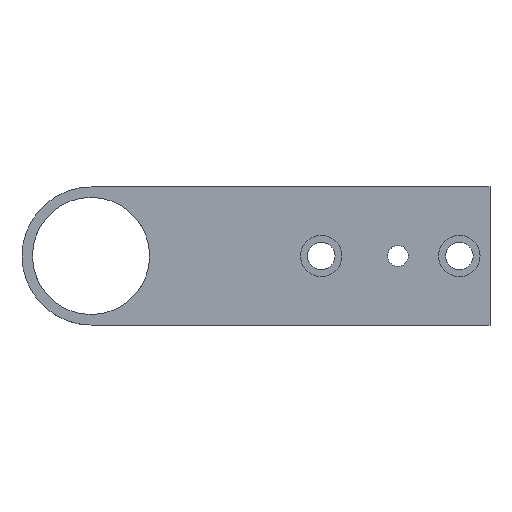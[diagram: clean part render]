
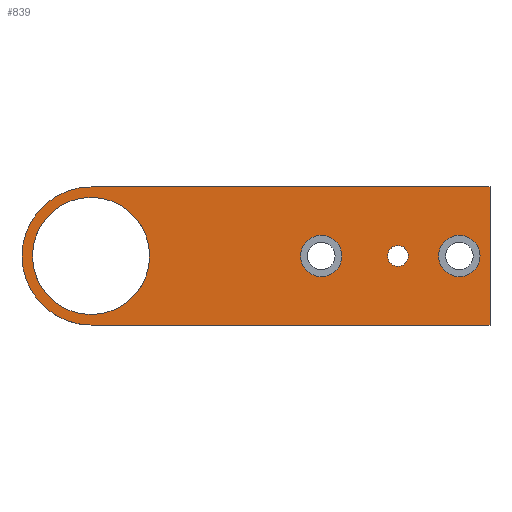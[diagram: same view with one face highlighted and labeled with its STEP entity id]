
A CAD part, top view. The second image highlights one B-rep face of the part: STEP entity #839.
In plain terms, the highlighted planar face has unit normal (0, 0, 1).
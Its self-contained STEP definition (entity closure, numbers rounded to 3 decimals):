
#11 = CARTESIAN_POINT ( 'NONE',  ( 130., -22.5, 6. ) ) ;
#12 = DIRECTION ( 'NONE',  ( 1., 0., 0. ) ) ;
#13 = CARTESIAN_POINT ( 'NONE',  ( 0., 0., 6. ) ) ;
#14 = DIRECTION ( 'NONE',  ( 0., 0., -1. ) ) ;
#15 = DIRECTION ( 'NONE',  ( 1., 0., 0. ) ) ;
#16 = CARTESIAN_POINT ( 'NONE',  ( 0., 0., 6. ) ) ;
#17 = DIRECTION ( 'NONE',  ( 0., 0., 1. ) ) ;
#18 = DIRECTION ( 'NONE',  ( 1., 0., 0. ) ) ;
#19 = CARTESIAN_POINT ( 'NONE',  ( 130., 22.5, 6. ) ) ;
#20 = DIRECTION ( 'NONE',  ( 0., 1., 0. ) ) ;
#21 = CARTESIAN_POINT ( 'NONE',  ( 0., 22.5, 6. ) ) ;
#22 = DIRECTION ( 'NONE',  ( -1., 0., 0. ) ) ;
#23 = CARTESIAN_POINT ( 'NONE',  ( 120., 0., 6. ) ) ;
#24 = DIRECTION ( 'NONE',  ( 0., 0., 1. ) ) ;
#25 = DIRECTION ( 'NONE',  ( 1., 0., 0. ) ) ;
#26 = CARTESIAN_POINT ( 'NONE',  ( 75., 0., 6. ) ) ;
#27 = DIRECTION ( 'NONE',  ( 0., 0., 1. ) ) ;
#28 = DIRECTION ( 'NONE',  ( 1., 0., 0. ) ) ;
#31 = CARTESIAN_POINT ( 'NONE',  ( 100., 0., 6. ) ) ;
#32 = DIRECTION ( 'NONE',  ( 0., 0., -1. ) ) ;
#33 = DIRECTION ( 'NONE',  ( -1., 0., 0. ) ) ;
#154 = AXIS2_PLACEMENT_3D ( 'NONE', #31, #32, #33 ) ;
#155 = AXIS2_PLACEMENT_3D ( 'NONE', #26, #27, #28 ) ;
#156 = AXIS2_PLACEMENT_3D ( 'NONE', #23, #24, #25 ) ;
#157 = AXIS2_PLACEMENT_3D ( 'NONE', #16, #17, #18 ) ;
#158 = AXIS2_PLACEMENT_3D ( 'NONE', #13, #14, #15 ) ;
#163 = AXIS2_PLACEMENT_3D ( 'NONE', #980, #981, #982 ) ;
#171 = AXIS2_PLACEMENT_3D ( 'NONE', #1037, #1038, #1039 ) ;
#178 = AXIS2_PLACEMENT_3D ( 'NONE', #872, #873, #874 ) ;
#185 = AXIS2_PLACEMENT_3D ( 'NONE', #1042, #1043, #1044 ) ;
#191 = AXIS2_PLACEMENT_3D ( 'NONE', #1073, #1074, #1075 ) ;
#208 = CIRCLE ( 'NONE', #191, 6.75 ) ;
#226 = CIRCLE ( 'NONE', #171, 3.4 ) ;
#232 = CIRCLE ( 'NONE', #185, 6.75 ) ;
#261 = FACE_OUTER_BOUND ( 'NONE', #360, .T. ) ;
#263 = FACE_BOUND ( 'NONE', #362, .T. ) ;
#265 = FACE_BOUND ( 'NONE', #358, .T. ) ;
#268 = FACE_BOUND ( 'NONE', #356, .T. ) ;
#275 = CARTESIAN_POINT ( 'NONE',  ( 130., 22.5, 6. ) ) ;
#276 = FACE_BOUND ( 'NONE', #357, .T. ) ;
#288 = CARTESIAN_POINT ( 'NONE',  ( 130., -22.5, 6. ) ) ;
#290 = CARTESIAN_POINT ( 'NONE',  ( 0., -22.5, 6. ) ) ;
#293 = CARTESIAN_POINT ( 'NONE',  ( -22.5, 0., 6. ) ) ;
#305 = CARTESIAN_POINT ( 'NONE',  ( 0., 22.5, 6. ) ) ;
#343 = VERTEX_POINT ( 'NONE', #633 ) ;
#356 = EDGE_LOOP ( 'NONE', ( #588, #587 ) ) ;
#357 = EDGE_LOOP ( 'NONE', ( #577, #576 ) ) ;
#358 = EDGE_LOOP ( 'NONE', ( #581, #580 ) ) ;
#360 = EDGE_LOOP ( 'NONE', ( #586, #585, #584, #583, #582 ) ) ;
#362 = EDGE_LOOP ( 'NONE', ( #579, #578 ) ) ;
#457 = VERTEX_POINT ( 'NONE', #641 ) ;
#459 = VERTEX_POINT ( 'NONE', #639 ) ;
#462 = VERTEX_POINT ( 'NONE', #645 ) ;
#476 = VERTEX_POINT ( 'NONE', #666 ) ;
#478 = VERTEX_POINT ( 'NONE', #669 ) ;
#479 = VERTEX_POINT ( 'NONE', #670 ) ;
#482 = VERTEX_POINT ( 'NONE', #674 ) ;
#576 = ORIENTED_EDGE ( 'NONE', *, *, #1345, .T. ) ;
#577 = ORIENTED_EDGE ( 'NONE', *, *, #1415, .T. ) ;
#578 = ORIENTED_EDGE ( 'NONE', *, *, #1347, .F. ) ;
#579 = ORIENTED_EDGE ( 'NONE', *, *, #1414, .F. ) ;
#580 = ORIENTED_EDGE ( 'NONE', *, *, #1359, .F. ) ;
#581 = ORIENTED_EDGE ( 'NONE', *, *, #1413, .F. ) ;
#582 = ORIENTED_EDGE ( 'NONE', *, *, #1412, .T. ) ;
#583 = ORIENTED_EDGE ( 'NONE', *, *, #1411, .T. ) ;
#584 = ORIENTED_EDGE ( 'NONE', *, *, #1410, .T. ) ;
#585 = ORIENTED_EDGE ( 'NONE', *, *, #1398, .T. ) ;
#586 = ORIENTED_EDGE ( 'NONE', *, *, #1409, .T. ) ;
#587 = ORIENTED_EDGE ( 'NONE', *, *, #1408, .T. ) ;
#588 = ORIENTED_EDGE ( 'NONE', *, *, #1371, .T. ) ;
#633 = CARTESIAN_POINT ( 'NONE',  ( 19.079, 0., 6. ) ) ;
#639 = CARTESIAN_POINT ( 'NONE',  ( 113.25, 0., 6. ) ) ;
#641 = CARTESIAN_POINT ( 'NONE',  ( -19.079, 0., 6. ) ) ;
#645 = CARTESIAN_POINT ( 'NONE',  ( 126.75, 0., 6. ) ) ;
#666 = CARTESIAN_POINT ( 'NONE',  ( 68.25, 0., 6. ) ) ;
#669 = CARTESIAN_POINT ( 'NONE',  ( 103.4, 0., 6. ) ) ;
#670 = CARTESIAN_POINT ( 'NONE',  ( 96.6, 0., 6. ) ) ;
#674 = CARTESIAN_POINT ( 'NONE',  ( 81.75, 0., 6. ) ) ;
#780 = VERTEX_POINT ( 'NONE', #275 ) ;
#787 = VERTEX_POINT ( 'NONE', #288 ) ;
#788 = VERTEX_POINT ( 'NONE', #290 ) ;
#790 = VERTEX_POINT ( 'NONE', #293 ) ;
#796 = VERTEX_POINT ( 'NONE', #305 ) ;
#839 = ADVANCED_FACE ( 'NONE', ( #268, #261, #265, #263, #276 ), #914, .T. ) ;
#872 = CARTESIAN_POINT ( 'NONE',  ( 0., 0., 6. ) ) ;
#873 = DIRECTION ( 'NONE',  ( 0., 0., -1. ) ) ;
#874 = DIRECTION ( 'NONE',  ( 1., 0., 0. ) ) ;
#910 = CARTESIAN_POINT ( 'NONE',  ( 0., 0., 6. ) ) ;
#914 = PLANE ( 'NONE',  #1541 ) ;
#917 = DIRECTION ( 'NONE',  ( 0., 0., 1. ) ) ;
#918 = DIRECTION ( 'NONE',  ( 1., 0., 0. ) ) ;
#980 = CARTESIAN_POINT ( 'NONE',  ( 0., 0., 6. ) ) ;
#981 = DIRECTION ( 'NONE',  ( 0., 0., 1. ) ) ;
#982 = DIRECTION ( 'NONE',  ( 1., 0., 0. ) ) ;
#1037 = CARTESIAN_POINT ( 'NONE',  ( 100., 0., 6. ) ) ;
#1038 = DIRECTION ( 'NONE',  ( 0., 0., -1. ) ) ;
#1039 = DIRECTION ( 'NONE',  ( -1., 0., 0. ) ) ;
#1042 = CARTESIAN_POINT ( 'NONE',  ( 75., 0., 6. ) ) ;
#1043 = DIRECTION ( 'NONE',  ( 0., 0., 1. ) ) ;
#1044 = DIRECTION ( 'NONE',  ( 1., 0., 0. ) ) ;
#1073 = CARTESIAN_POINT ( 'NONE',  ( 120., 0., 6. ) ) ;
#1074 = DIRECTION ( 'NONE',  ( 0., 0., 1. ) ) ;
#1075 = DIRECTION ( 'NONE',  ( 1., 0., 0. ) ) ;
#1217 = CIRCLE ( 'NONE', #154, 3.4 ) ;
#1218 = CIRCLE ( 'NONE', #155, 6.75 ) ;
#1219 = VECTOR ( 'NONE', #22, 1000. ) ;
#1220 = CIRCLE ( 'NONE', #156, 6.75 ) ;
#1221 = VECTOR ( 'NONE', #20, 1000. ) ;
#1222 = LINE ( 'NONE', #21, #1219 ) ;
#1223 = VECTOR ( 'NONE', #12, 1000. ) ;
#1224 = LINE ( 'NONE', #19, #1221 ) ;
#1225 = LINE ( 'NONE', #11, #1223 ) ;
#1226 = CIRCLE ( 'NONE', #157, 22.5 ) ;
#1231 = CIRCLE ( 'NONE', #158, 19.079 ) ;
#1246 = CIRCLE ( 'NONE', #163, 22.5 ) ;
#1278 = CIRCLE ( 'NONE', #178, 19.079 ) ;
#1345 = EDGE_CURVE ( 'NONE', #478, #479, #226, .T. ) ;
#1347 = EDGE_CURVE ( 'NONE', #476, #482, #232, .T. ) ;
#1359 = EDGE_CURVE ( 'NONE', #459, #462, #208, .T. ) ;
#1371 = EDGE_CURVE ( 'NONE', #457, #343, #1278, .T. ) ;
#1398 = EDGE_CURVE ( 'NONE', #790, #788, #1246, .T. ) ;
#1408 = EDGE_CURVE ( 'NONE', #343, #457, #1231, .T. ) ;
#1409 = EDGE_CURVE ( 'NONE', #796, #790, #1226, .T. ) ;
#1410 = EDGE_CURVE ( 'NONE', #788, #787, #1225, .T. ) ;
#1411 = EDGE_CURVE ( 'NONE', #787, #780, #1224, .T. ) ;
#1412 = EDGE_CURVE ( 'NONE', #780, #796, #1222, .T. ) ;
#1413 = EDGE_CURVE ( 'NONE', #462, #459, #1220, .T. ) ;
#1414 = EDGE_CURVE ( 'NONE', #482, #476, #1218, .T. ) ;
#1415 = EDGE_CURVE ( 'NONE', #479, #478, #1217, .T. ) ;
#1541 = AXIS2_PLACEMENT_3D ( 'NONE', #910, #917, #918 ) ;
